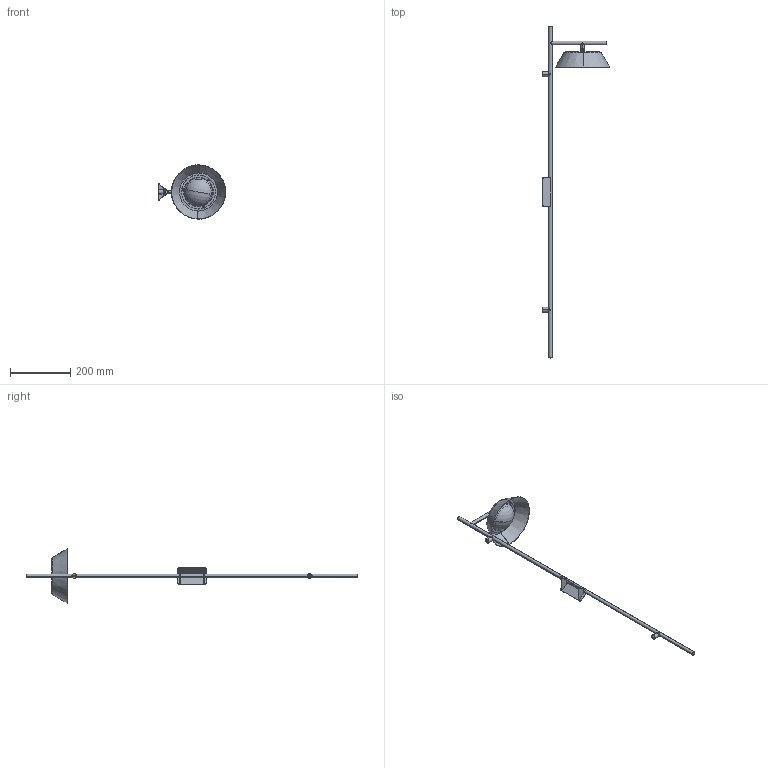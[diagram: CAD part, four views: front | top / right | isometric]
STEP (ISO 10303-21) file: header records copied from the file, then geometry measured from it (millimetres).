
FILE_DESCRIPTION (( 'STEP AP203' ), '1' );
FILE_NAME ('Aplique brazo LARGO base (con pantalla CONO).STEP', '2025-04-04T11:47:52', ( '' ), ( '' ), 'SwSTEP 2.0', 'SolidWorks 2021', '' );
FILE_SCHEMA (( 'CONFIG_CONTROL_DESIGN' ));
Length unit declared in the file: millimetre
Products named in the file (1): Aplique brazo LARGO base (con pantalla CONO)
Bounding box: 222.94 x 1100 x 179.79 mm (x, y, z)
Volume: 155225.1 mm3; surface area: 248649.8 mm2
Topology: 8 solids, 8 shells, 268 faces, 691 edges, 436 vertices
Faces by surface type: cylinder 122, plane 77, bspline 31, torus 24, cone 10, sphere 4
Entity records: 19814 total; most frequent: CARTESIAN_POINT 13597, ORIENTED_EDGE 1374, DIRECTION 1188, EDGE_CURVE 687, AXIS2_PLACEMENT_3D 471, VERTEX_POINT 436, EDGE_LOOP 319, FACE_OUTER_BOUND 268
